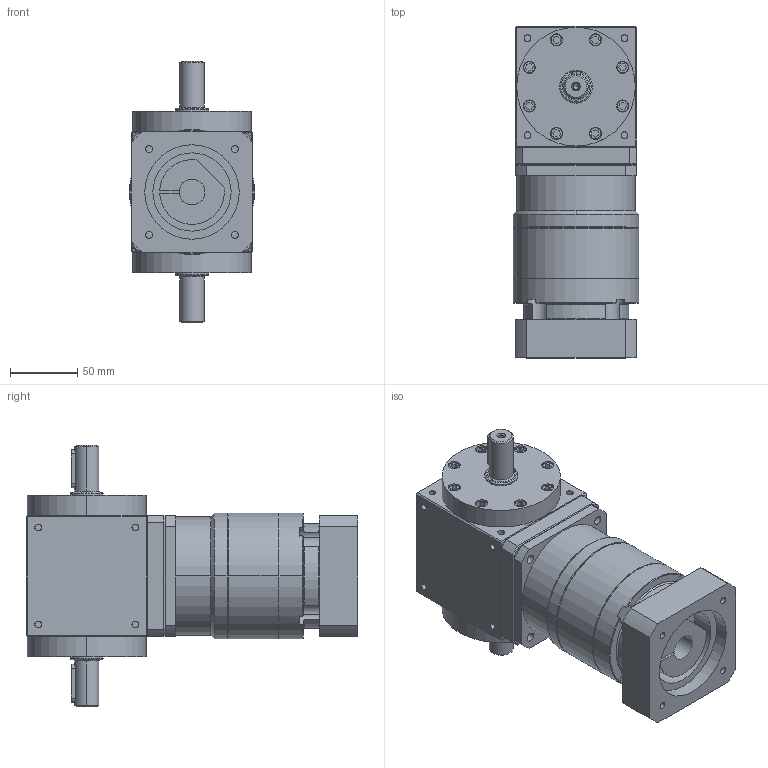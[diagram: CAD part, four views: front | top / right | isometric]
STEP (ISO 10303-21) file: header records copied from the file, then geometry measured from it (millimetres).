
FILE_DESCRIPTION (( 'STEP AP203' ), '1' );
FILE_NAME ('AT090-FL-L2 19-70-90-M6.STEP', '2024-12-19T08:20:37', ( '' ), ( '' ), 'SwSTEP 2.0', 'SolidWorks 2021', '' );
FILE_SCHEMA (( 'CONFIG_CONTROL_DESIGN' ));
Length unit declared in the file: millimetre
Products named in the file (3): AT090-FL; VRB-090-L2-S2-P1 19-70-90-M6; AT090-FL-L2 19-70-90-M6
Assembly tree (2 placements, depth 2):
  AT090-FL-L2 19-70-90-M6
    AT090-FL
    VRB-090-L2-S2-P1 19-70-90-M6
Bounding box: 93 x 246 x 194 mm (x, y, z)
Volume: 1992007.3 mm3; surface area: 159601.4 mm2
Topology: 2 solids, 2 shells, 587 faces, 1397 edges, 876 vertices
Faces by surface type: plane 267, cylinder 237, cone 69, bspline 14
Entity records: 18113 total; most frequent: CARTESIAN_POINT 4298, DIRECTION 2870, ORIENTED_EDGE 2782, EDGE_CURVE 1391, AXIS2_PLACEMENT_3D 1076, VERTEX_POINT 876, VECTOR 718, LINE 718
